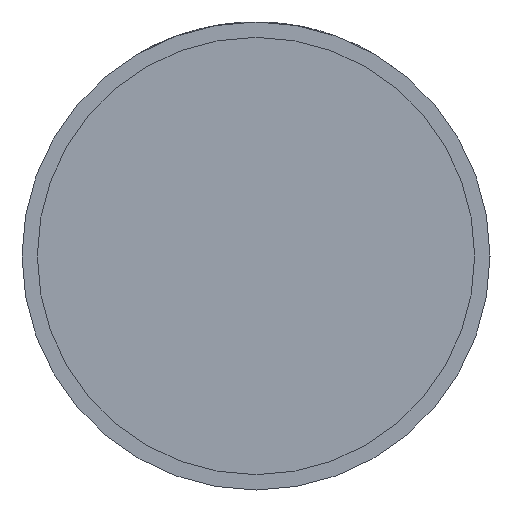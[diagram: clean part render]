
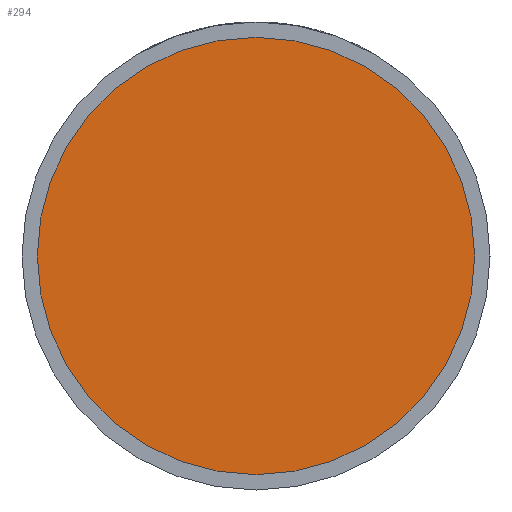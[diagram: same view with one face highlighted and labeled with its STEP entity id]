
A CAD part, front view. The second image highlights one B-rep face of the part: STEP entity #294.
In plain terms, the highlighted planar face has unit normal (0, -1, 0).
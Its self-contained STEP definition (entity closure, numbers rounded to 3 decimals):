
#294 = ADVANCED_FACE ( 'NONE', ( #3989 ), #3687, .T. ) ;
#362 = DIRECTION ( 'NONE',  ( 1., 0., 0. ) ) ;
#402 = DIRECTION ( 'NONE',  ( 0., -1., 0. ) ) ;
#425 = CARTESIAN_POINT ( 'NONE',  ( -28.5, -17.5, 0. ) ) ;
#730 = DIRECTION ( 'NONE',  ( 0., -1., 0. ) ) ;
#753 = CARTESIAN_POINT ( 'NONE',  ( 28.5, -17.5, 0. ) ) ;
#1160 = EDGE_LOOP ( 'NONE', ( #1548, #1760 ) ) ;
#1200 = AXIS2_PLACEMENT_3D ( 'NONE', #3011, #3328, #3270 ) ;
#1332 = AXIS2_PLACEMENT_3D ( 'NONE', #3645, #730, #362 ) ;
#1356 = DIRECTION ( 'NONE',  ( 1., 0., 0. ) ) ;
#1548 = ORIENTED_EDGE ( 'NONE', *, *, #2037, .T. ) ;
#1760 = ORIENTED_EDGE ( 'NONE', *, *, #2856, .T. ) ;
#1842 = AXIS2_PLACEMENT_3D ( 'NONE', #4272, #402, #1356 ) ;
#1939 = CIRCLE ( 'NONE', #1200, 28.5 ) ;
#1990 = VERTEX_POINT ( 'NONE', #753 ) ;
#2037 = EDGE_CURVE ( 'NONE', #1990, #2101, #4024, .T. ) ;
#2101 = VERTEX_POINT ( 'NONE', #425 ) ;
#2856 = EDGE_CURVE ( 'NONE', #2101, #1990, #1939, .T. ) ;
#3011 = CARTESIAN_POINT ( 'NONE',  ( 0., -17.5, 0. ) ) ;
#3270 = DIRECTION ( 'NONE',  ( 1., 0., 0. ) ) ;
#3328 = DIRECTION ( 'NONE',  ( 0., -1., 0. ) ) ;
#3645 = CARTESIAN_POINT ( 'NONE',  ( 0., -17.5, 0. ) ) ;
#3687 = PLANE ( 'NONE',  #1842 ) ;
#3989 = FACE_OUTER_BOUND ( 'NONE', #1160, .T. ) ;
#4024 = CIRCLE ( 'NONE', #1332, 28.5 ) ;
#4272 = CARTESIAN_POINT ( 'NONE',  ( 28.5, -17.5, 0. ) ) ;
